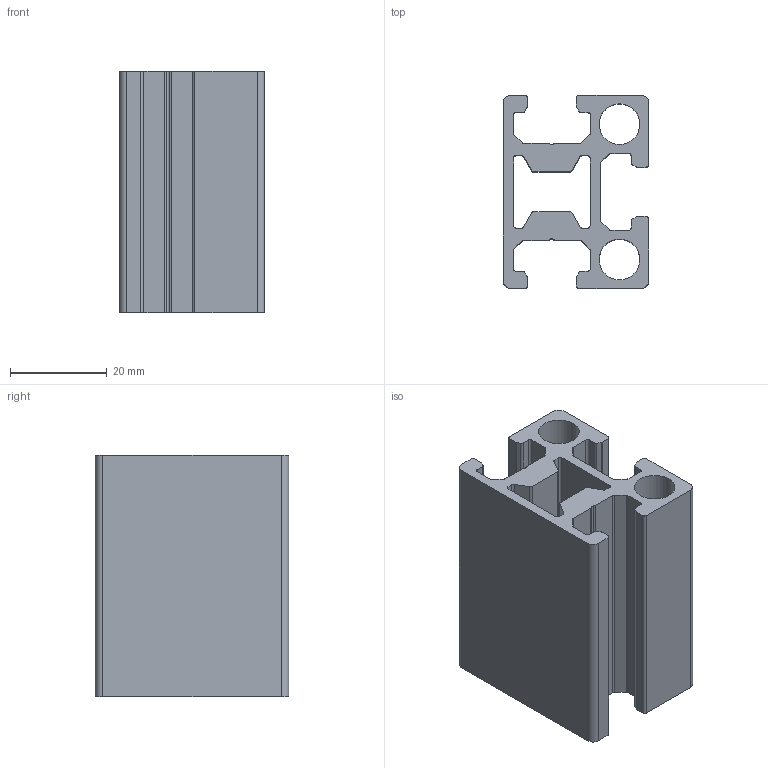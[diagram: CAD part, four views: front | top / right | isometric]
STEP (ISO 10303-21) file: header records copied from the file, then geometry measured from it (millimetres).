
FILE_DESCRIPTION(('STEP AP214'),'1');
FILE_NAME('F34KB-.stp','2017-07-21T04:11:29',(' '),(' '),'Spatial InterOp 3D',' ',' ');
FILE_SCHEMA(('automotive_design'));
Length unit declared in the file: millimetre
Products named in the file (1): F34KB-
Bounding box: 30 x 40 x 50 mm (x, y, z)
Volume: 25510.5 mm3; surface area: 18043.8 mm2
Topology: 1 solids, 1 shells, 120 faces, 356 edges, 238 vertices
Faces by surface type: plane 60, cylinder 60
Full cylindrical faces by diameter (mm): 8.4 x2
Entity records: 5034 total; most frequent: DIRECTION 716, CARTESIAN_POINT 713, ORIENTED_EDGE 708, EDGE_CURVE 354, AXIS2_PLACEMENT_3D 241, VERTEX_POINT 238, LINE 234, VECTOR 234
